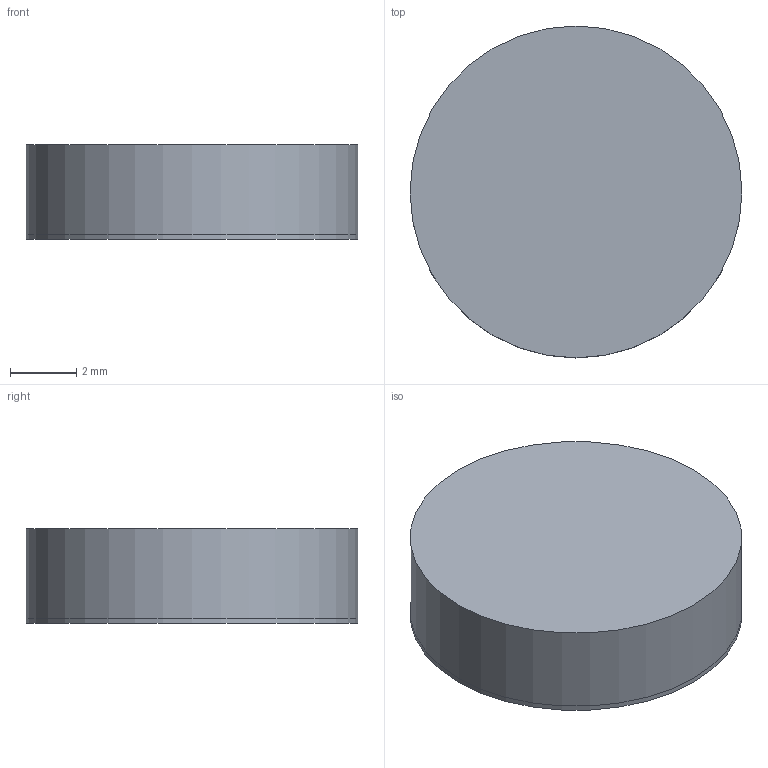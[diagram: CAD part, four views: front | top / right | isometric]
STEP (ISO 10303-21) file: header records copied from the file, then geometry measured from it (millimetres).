
FILE_DESCRIPTION(('Open CASCADE Model'),'2;1');
FILE_NAME('Open CASCADE Shape Model','2026-09-08T07:39:02',('Author'),( 'Open CASCADE'),'Open CASCADE STEP processor 7.9','Open CASCADE 7.9' ,'Unknown');
FILE_SCHEMA(('AUTOMOTIVE_DESIGN { 1 0 10303 214 1 1 1 1 }'));
Length unit declared in the file: millimetre
Products named in the file (1): COMPOUND
Bounding box: 10 x 10 x 2.85 mm (x, y, z)
Volume: 223.8 mm3; surface area: 403.7 mm2
Topology: 2 solids, 2 shells, 6 faces, 6 edges, 4 vertices
Faces by surface type: plane 4, cylinder 2
Full cylindrical faces by diameter (mm): 10 x2
Entity records: 216 total; most frequent: DIRECTION 36, CARTESIAN_POINT 29, ORIENTED_EDGE 12, PCURVE 12, DEFINITIONAL_REPRESENTATION 12, AXIS2_PLACEMENT_3D 11, LINE 10, VECTOR 10
